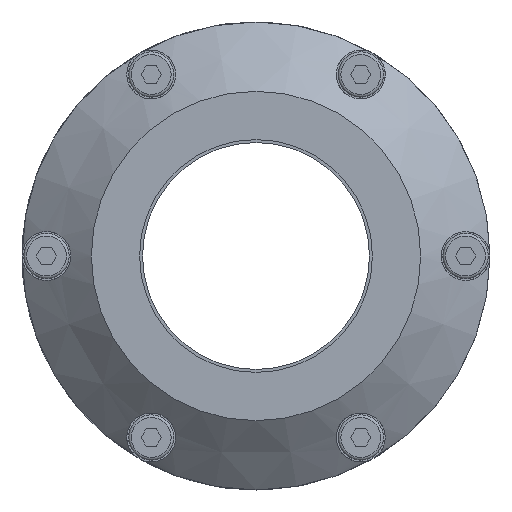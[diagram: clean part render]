
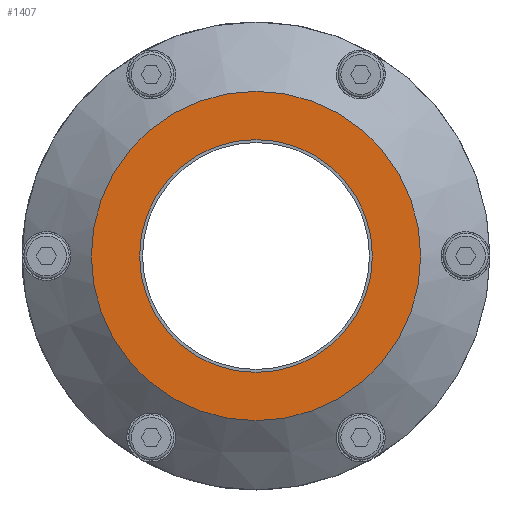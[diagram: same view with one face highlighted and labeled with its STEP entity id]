
A CAD part, left-side view. The second image highlights one B-rep face of the part: STEP entity #1407.
In plain terms, the highlighted planar face has unit normal (-1, 0, 0).
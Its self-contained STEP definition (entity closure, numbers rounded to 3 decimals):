
#1407=ADVANCED_FACE('',(#1985,#1986),#1821,.T.);
#1821=PLANE('',#6062);
#1985=FACE_BOUND('',#2359,.T.);
#1986=FACE_BOUND('',#2360,.T.);
#2359=EDGE_LOOP('',(#2979));
#2360=EDGE_LOOP('',(#2980));
#2979=ORIENTED_EDGE('',*,*,#5018,.T.);
#2980=ORIENTED_EDGE('',*,*,#5019,.T.);
#4493=VERTEX_POINT('',#8218);
#4494=VERTEX_POINT('',#8220);
#5018=EDGE_CURVE('',#4493,#4493,#5775,.T.);
#5019=EDGE_CURVE('',#4494,#4494,#5776,.T.);
#5775=CIRCLE('',#6060,33.338);
#5776=CIRCLE('',#6061,47.161);
#6060=AXIS2_PLACEMENT_3D('',#8217,#6688,#6689);
#6061=AXIS2_PLACEMENT_3D('',#8219,#6690,#6691);
#6062=AXIS2_PLACEMENT_3D('',#8221,#6692,#6693);
#6688=DIRECTION('',(1.,0.,0.));
#6689=DIRECTION('',(0.,0.866,-0.5));
#6690=DIRECTION('',(-1.,0.,0.));
#6691=DIRECTION('',(0.,-0.866,0.5));
#6692=DIRECTION('',(-1.,0.,0.));
#6693=DIRECTION('',(0.,-0.866,0.5));
#8217=CARTESIAN_POINT('',(-120.,0.,0.));
#8218=CARTESIAN_POINT('',(-120.,28.871,-16.669));
#8219=CARTESIAN_POINT('',(-120.,0.,0.));
#8220=CARTESIAN_POINT('',(-120.,-40.843,23.58));
#8221=CARTESIAN_POINT('',(-120.,0.,0.));
